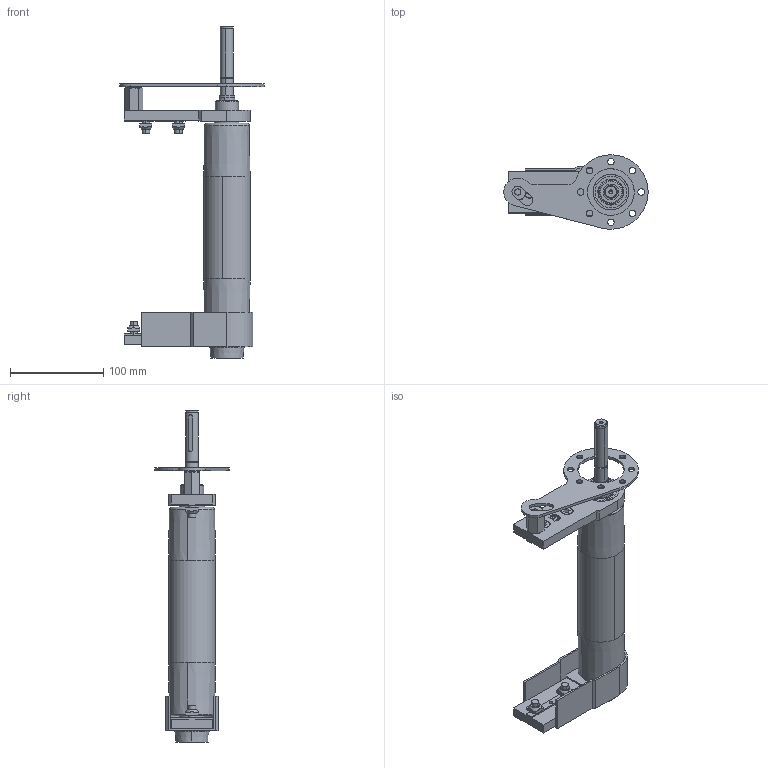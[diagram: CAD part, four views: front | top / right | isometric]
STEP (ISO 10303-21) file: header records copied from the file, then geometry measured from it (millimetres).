
FILE_DESCRIPTION (( 'STEP AP203' ), '1' );
FILE_NAME ('084.050.KDC.30.200.STEP', '2019-07-29T10:14:03', ( '' ), ( '' ), 'SwSTEP 2.0', 'SolidWorks 2018', '' );
FILE_SCHEMA (( 'CONFIG_CONTROL_DESIGN' ));
Length unit declared in the file: millimetre
Products named in the file (13): 084.811.004; 084.802.017_084.802.017; 084.807.005; 084.811.001; 084.807.004_084.807.004; 084.050.KDC.30.200; 084.302.000 DADI ALUSIC 13x13_084.302.004; 084.802.023_084.802.023; 084.301.000 VITI ALUSIC_084.301.003; 084.807.013_084.807.003; 084.802.027; 084.810.001; 084.815.103_Default<A macchina>
Assembly tree (20 placements, depth 2):
  084.050.KDC.30.200
    084.807.004_084.807.004
    084.807.013_084.807.003
    084.802.017_084.802.017  x2
    084.811.004
    084.810.001  x2
    084.815.103_Default<A macchina>
    084.811.001
    084.802.027
    084.807.005
    084.802.023_084.802.023
    084.301.000 VITI ALUSIC_084.301.003  x4
    084.302.000 DADI ALUSIC 13x13_084.302.004  x4
Bounding box: 154.99 x 80 x 356.5 mm (x, y, z)
Volume: 390890.3 mm3; surface area: 240934.9 mm2
Topology: 22 solids, 24 shells, 741 faces, 1866 edges, 1212 vertices
Faces by surface type: plane 306, cylinder 233, torus 70, cone 70, bspline 54, sphere 8
Entity records: 19164 total; most frequent: CARTESIAN_POINT 4059, DIRECTION 2837, ORIENTED_EDGE 2800, EDGE_CURVE 1400, AXIS2_PLACEMENT_3D 1080, VERTEX_POINT 914, VECTOR 677, LINE 677
